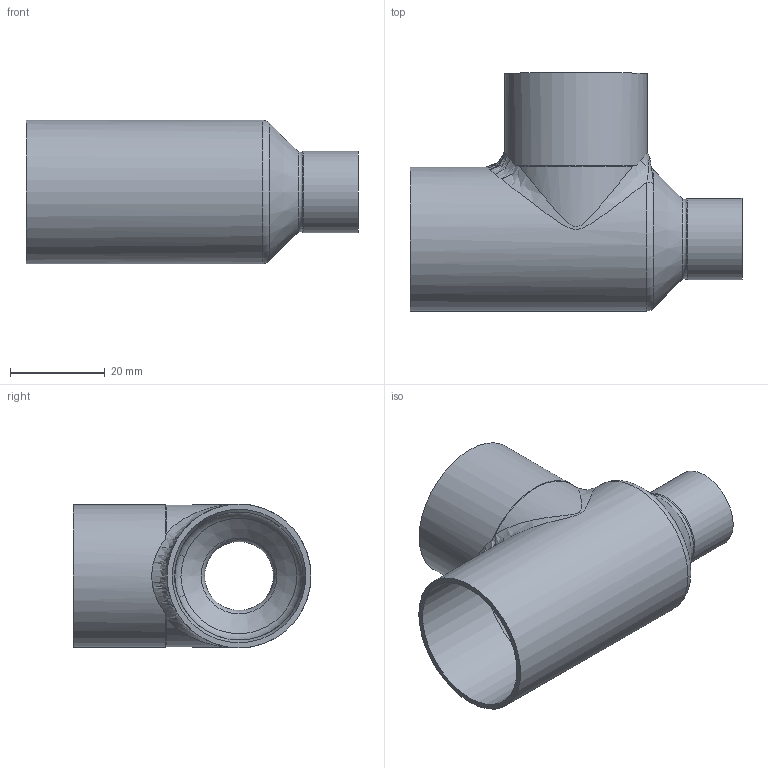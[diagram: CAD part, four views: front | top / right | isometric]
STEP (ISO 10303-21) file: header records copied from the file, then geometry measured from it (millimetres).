
FILE_DESCRIPTION(/* description */ (''),/* implementation_level */ '2;1');
FILE_NAME(/* name */ 'G:\Technik\Management\Bouwmaten + markeringen\z-maattekeningen 3D\5000\5130\15130282815.stp',/* time_stamp */ '2021-06-11T09:41:28+02:00',/* author */ ('vdvijverd'),/* organization */ (''),/* preprocessor_version */ 'ST-DEVELOPER v18.1',/* originating_system */ 'Autodesk Inventor 2021',/* authorisation */ '');
FILE_SCHEMA (('AUTOMOTIVE_DESIGN { 1 0 10303 214 3 1 1 }'));
Length unit declared in the file: millimetre
Products named in the file (1): 15130282815
Bounding box: 70 x 50.17 x 30.35 mm (x, y, z)
Volume: 9457.1 mm3; surface area: 15050.8 mm2
Topology: 1 solids, 1 shells, 33 faces, 100 edges, 68 vertices
Faces by surface type: cylinder 11, torus 6, bspline 6, cone 6, plane 4
Full cylindrical faces by diameter (mm): 15.12 x1, 17.12 x1, 28.15 x2, 30.15 x1, 30.35 x1
Entity records: 2014 total; most frequent: CARTESIAN_POINT 1078, ORIENTED_EDGE 202, DIRECTION 183, EDGE_CURVE 101, AXIS2_PLACEMENT_3D 86, VERTEX_POINT 69, CIRCLE 58, EDGE_LOOP 36
